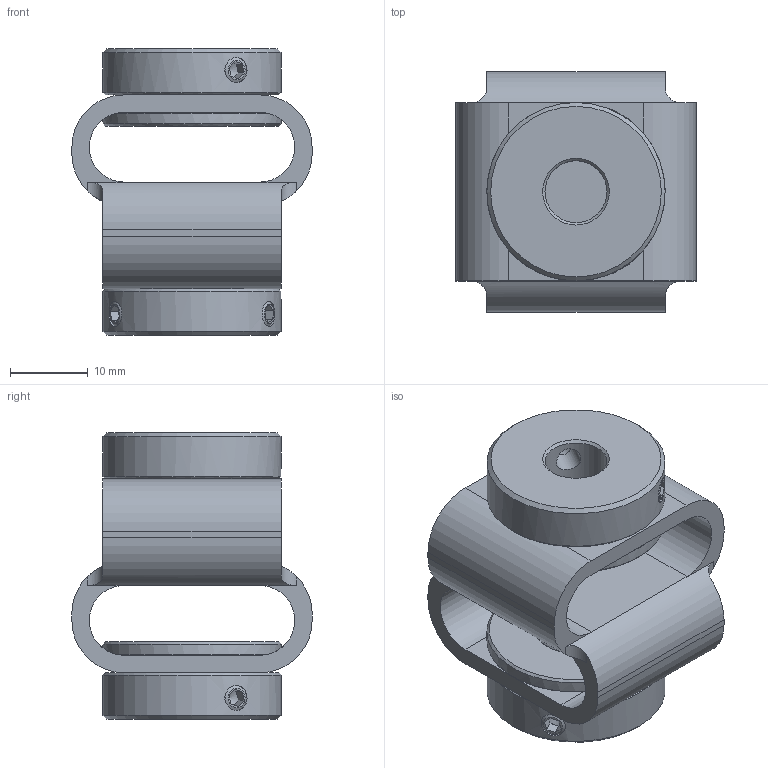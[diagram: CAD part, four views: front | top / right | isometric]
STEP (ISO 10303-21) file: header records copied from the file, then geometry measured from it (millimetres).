
FILE_DESCRIPTION(/* description */ (''),/* implementation_level */ '2;1');
FILE_NAME(/* name */ 'Z:\ABP-Antriebstechnik\Werbung\Internet\step Dateien\DKPS 3835 08 10.stp',/* time_stamp */ '2014-07-11T10:02:28+02:00',/* author */ ('werner.boesinger'),/* organization */ (''),/* preprocessor_version */ 'ST-DEVELOPER v15.2',/* originating_system */ 'Autodesk Inventor 2014',/* authorisation */ '');
FILE_SCHEMA (('AUTOMOTIVE_DESIGN { 1 0 10303 214 3 1 1 }'));
Length unit declared in the file: millimetre
Products named in the file (1): DKPS 3835 08 10
Bounding box: 31 x 31 x 36.95 mm (x, y, z)
Volume: 11524.7 mm3; surface area: 7982 mm2
Topology: 1 solids, 3 shells, 146 faces, 356 edges, 216 vertices
Faces by surface type: plane 82, cylinder 34, cone 30
Full cylindrical faces by diameter (mm): 3.242 x8, 8 x1, 10 x1, 14 x2, 15 x2, 23 x4
Entity records: 4252 total; most frequent: CARTESIAN_POINT 1027, DIRECTION 646, ORIENTED_EDGE 556, EDGE_CURVE 278, AXIS2_PLACEMENT_3D 253, EDGE_LOOP 202, VERTEX_POINT 182, STYLED_ITEM 147
